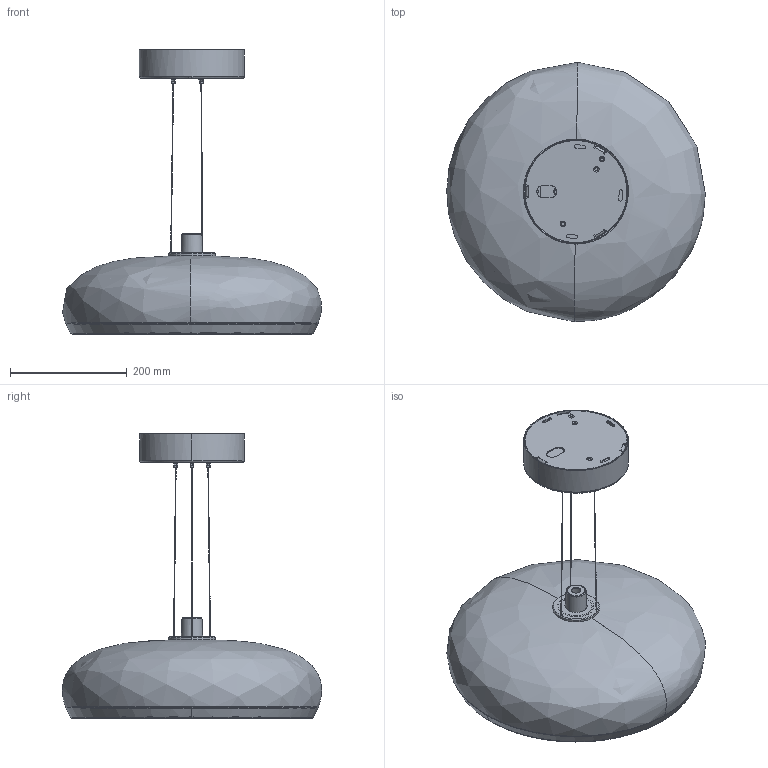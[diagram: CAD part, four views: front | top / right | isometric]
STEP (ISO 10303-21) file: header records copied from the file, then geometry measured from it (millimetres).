
FILE_DESCRIPTION(/* description */ (''),/* implementation_level */ '2;1');
FILE_NAME(/* name */ '00456MP0LD0 - AURELIA S 45',/* time_stamp */ '2023-05-04T11:18:30+02:00',/* author */ (''),/* organization */ (''),/* preprocessor_version */ 'ST-DEVELOPER v16.5',/* originating_system */ 'Rhino 7.27',/* authorisation */ '');
FILE_SCHEMA (('CONFIG_CONTROL_DESIGN'));
Length unit declared in the file: millimetre
Products named in the file (3): Document; INSERTO X PLASTICA M3 SPECIAL INSERT 862.0030.80; 00456C254 copia
Assembly tree (3 placements, depth 2):
  Document
    INSERTO X PLASTICA M3 SPECIAL INSERT 862.0030.80  x2
    00456C254 copia
Bounding box: 443.35 x 444.58 x 487.5 mm (x, y, z)
Volume: 1382775.2 mm3; surface area: 1315035.6 mm2
Topology: 21 solids, 21 shells, 959 faces, 2372 edges, 1597 vertices
Faces by surface type: plane 518, cylinder 235, bspline 206
Entity records: 33051 total; most frequent: CARTESIAN_POINT 17234, ORIENTED_EDGE 4604, EDGE_CURVE 2302, VERTEX_POINT 1545, EDGE_LOOP 1153, B_SPLINE_CURVE_WITH_KNOTS 1106, ADVANCED_FACE 937, FACE_OUTER_BOUND 937
